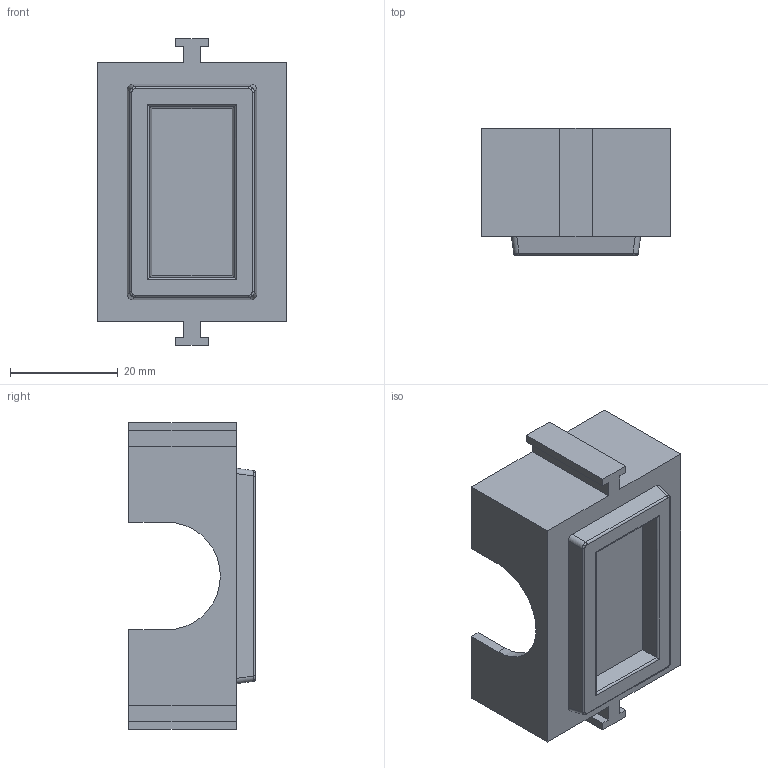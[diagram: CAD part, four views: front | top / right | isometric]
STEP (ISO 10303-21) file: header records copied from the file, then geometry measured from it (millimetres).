
FILE_DESCRIPTION (( 'STEP AP214' ), '1' );
FILE_NAME ('cardholder.STEP', '2025-06-15T00:43:21', ( '' ), ( '' ), 'SwSTEP 2.0', 'SolidWorks 2024', '' );
FILE_SCHEMA (( 'AUTOMOTIVE_DESIGN' ));
Length unit declared in the file: millimetre
Products named in the file (1): cardholder
Bounding box: 35 x 23.5 x 57 mm (x, y, z)
Volume: 9702.1 mm3; surface area: 9581.5 mm2
Topology: 1 solids, 1 shells, 68 faces, 176 edges, 112 vertices
Faces by surface type: plane 42, cylinder 18, bspline 8
Entity records: 2107 total; most frequent: CARTESIAN_POINT 529, ORIENTED_EDGE 352, DIRECTION 286, EDGE_CURVE 176, LINE 132, VECTOR 132, VERTEX_POINT 112, AXIS2_PLACEMENT_3D 77
